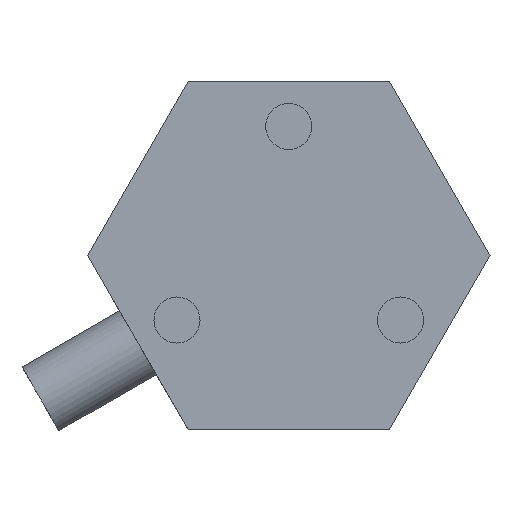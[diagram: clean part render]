
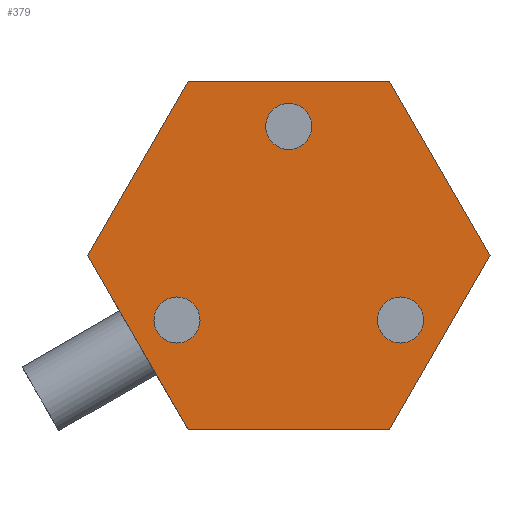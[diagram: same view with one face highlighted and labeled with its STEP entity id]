
A CAD part, front view. The second image highlights one B-rep face of the part: STEP entity #379.
In plain terms, the highlighted planar face has unit normal (0, -1, 0).
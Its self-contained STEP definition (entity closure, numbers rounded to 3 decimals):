
#1 = LINE ( 'NONE', #137, #158 ) ;
#3 = VERTEX_POINT ( 'NONE', #65 ) ;
#7 = AXIS2_PLACEMENT_3D ( 'NONE', #481, #135, #305 ) ;
#8 = EDGE_LOOP ( 'NONE', ( #540, #390, #529, #429, #445, #451 ) ) ;
#11 = FACE_BOUND ( 'NONE', #316, .T. ) ;
#14 = CARTESIAN_POINT ( 'NONE',  ( 0., 0., 0. ) ) ;
#17 = CARTESIAN_POINT ( 'NONE',  ( 5.456, 0., 9.45 ) ) ;
#23 = VECTOR ( 'NONE', #180, 1000. ) ;
#48 = CARTESIAN_POINT ( 'NONE',  ( 0., 0., 5.75 ) ) ;
#51 = ORIENTED_EDGE ( 'NONE', *, *, #436, .T. ) ;
#56 = DIRECTION ( 'NONE',  ( -0.5, 0., 0.866 ) ) ;
#59 = FACE_BOUND ( 'NONE', #401, .T. ) ;
#62 = CARTESIAN_POINT ( 'NONE',  ( -5.456, 0., -9.45 ) ) ;
#65 = CARTESIAN_POINT ( 'NONE',  ( -6.062, 0., -2.25 ) ) ;
#67 = AXIS2_PLACEMENT_3D ( 'NONE', #365, #97, #539 ) ;
#72 = VERTEX_POINT ( 'NONE', #536 ) ;
#77 = CARTESIAN_POINT ( 'NONE',  ( 6.062, 0., -4.75 ) ) ;
#86 = VECTOR ( 'NONE', #56, 1000. ) ;
#95 = ORIENTED_EDGE ( 'NONE', *, *, #191, .T. ) ;
#97 = DIRECTION ( 'NONE',  ( 0., 1., 0. ) ) ;
#100 = EDGE_CURVE ( 'NONE', #357, #182, #327, .T. ) ;
#102 = FACE_OUTER_BOUND ( 'NONE', #8, .T. ) ;
#109 = CARTESIAN_POINT ( 'NONE',  ( -6.062, 0., -3.5 ) ) ;
#116 = CARTESIAN_POINT ( 'NONE',  ( -5.456, 0., 9.45 ) ) ;
#120 = CARTESIAN_POINT ( 'NONE',  ( 0., 0., 7. ) ) ;
#121 = ORIENTED_EDGE ( 'NONE', *, *, #231, .T. ) ;
#124 = DIRECTION ( 'NONE',  ( 1., 0., 0. ) ) ;
#127 = EDGE_CURVE ( 'NONE', #182, #211, #425, .T. ) ;
#128 = DIRECTION ( 'NONE',  ( 0.5, 0., -0.866 ) ) ;
#131 = VECTOR ( 'NONE', #472, 1000. ) ;
#135 = DIRECTION ( 'NONE',  ( 0., 1., 0. ) ) ;
#136 = ORIENTED_EDGE ( 'NONE', *, *, #203, .T. ) ;
#137 = CARTESIAN_POINT ( 'NONE',  ( -5.456, 0., 9.45 ) ) ;
#143 = EDGE_CURVE ( 'NONE', #344, #557, #428, .T. ) ;
#158 = VECTOR ( 'NONE', #124, 1000. ) ;
#160 = DIRECTION ( 'NONE',  ( 0.5, 0., 0.866 ) ) ;
#162 = VERTEX_POINT ( 'NONE', #77 ) ;
#163 = DIRECTION ( 'NONE',  ( 0., 1., 0. ) ) ;
#164 = ORIENTED_EDGE ( 'NONE', *, *, #312, .T. ) ;
#168 = AXIS2_PLACEMENT_3D ( 'NONE', #14, #452, #279 ) ;
#180 = DIRECTION ( 'NONE',  ( -1., 0., 0. ) ) ;
#182 = VERTEX_POINT ( 'NONE', #466 ) ;
#189 = CIRCLE ( 'NONE', #67, 1.25 ) ;
#191 = EDGE_CURVE ( 'NONE', #468, #564, #487, .T. ) ;
#194 = PLANE ( 'NONE',  #168 ) ;
#202 = EDGE_CURVE ( 'NONE', #413, #3, #244, .T. ) ;
#203 = EDGE_CURVE ( 'NONE', #3, #413, #205, .T. ) ;
#205 = CIRCLE ( 'NONE', #274, 1.25 ) ;
#210 = CARTESIAN_POINT ( 'NONE',  ( 10.912, 0., 0. ) ) ;
#211 = VERTEX_POINT ( 'NONE', #116 ) ;
#215 = AXIS2_PLACEMENT_3D ( 'NONE', #257, #163, #501 ) ;
#227 = CARTESIAN_POINT ( 'NONE',  ( -5.456, 0., -9.45 ) ) ;
#231 = EDGE_CURVE ( 'NONE', #564, #468, #532, .T. ) ;
#244 = CIRCLE ( 'NONE', #215, 1.25 ) ;
#257 = CARTESIAN_POINT ( 'NONE',  ( -6.062, 0., -3.5 ) ) ;
#259 = CARTESIAN_POINT ( 'NONE',  ( 0., 0., 7. ) ) ;
#260 = CARTESIAN_POINT ( 'NONE',  ( 5.456, 0., -9.45 ) ) ;
#274 = AXIS2_PLACEMENT_3D ( 'NONE', #109, #295, #511 ) ;
#279 = DIRECTION ( 'NONE',  ( 0., 0., 1. ) ) ;
#295 = DIRECTION ( 'NONE',  ( 0., 1., 0. ) ) ;
#296 = DIRECTION ( 'NONE',  ( 0., 0., 1. ) ) ;
#301 = DIRECTION ( 'NONE',  ( 0., 1., 0. ) ) ;
#305 = DIRECTION ( 'NONE',  ( 0., 0., 1. ) ) ;
#309 = EDGE_CURVE ( 'NONE', #557, #357, #349, .T. ) ;
#311 = EDGE_LOOP ( 'NONE', ( #121, #95 ) ) ;
#312 = EDGE_CURVE ( 'NONE', #162, #374, #448, .T. ) ;
#315 = CARTESIAN_POINT ( 'NONE',  ( 5.456, 0., -9.45 ) ) ;
#316 = EDGE_LOOP ( 'NONE', ( #386, #136 ) ) ;
#324 = FACE_BOUND ( 'NONE', #311, .T. ) ;
#327 = LINE ( 'NONE', #62, #86 ) ;
#344 = VERTEX_POINT ( 'NONE', #565 ) ;
#349 = LINE ( 'NONE', #315, #23 ) ;
#357 = VERTEX_POINT ( 'NONE', #227 ) ;
#365 = CARTESIAN_POINT ( 'NONE',  ( 6.062, 0., -3.5 ) ) ;
#374 = VERTEX_POINT ( 'NONE', #531 ) ;
#377 = VECTOR ( 'NONE', #128, 1000. ) ;
#379 = ADVANCED_FACE ( 'NONE', ( #102, #59, #11, #324 ), #194, .F. ) ;
#386 = ORIENTED_EDGE ( 'NONE', *, *, #202, .T. ) ;
#390 = ORIENTED_EDGE ( 'NONE', *, *, #143, .F. ) ;
#401 = EDGE_LOOP ( 'NONE', ( #164, #51 ) ) ;
#405 = AXIS2_PLACEMENT_3D ( 'NONE', #120, #431, #545 ) ;
#413 = VERTEX_POINT ( 'NONE', #542 ) ;
#416 = VECTOR ( 'NONE', #160, 1000. ) ;
#424 = LINE ( 'NONE', #17, #377 ) ;
#425 = LINE ( 'NONE', #469, #416 ) ;
#428 = LINE ( 'NONE', #210, #131 ) ;
#429 = ORIENTED_EDGE ( 'NONE', *, *, #546, .F. ) ;
#431 = DIRECTION ( 'NONE',  ( 0., 1., 0. ) ) ;
#436 = EDGE_CURVE ( 'NONE', #374, #162, #189, .T. ) ;
#445 = ORIENTED_EDGE ( 'NONE', *, *, #127, .F. ) ;
#448 = CIRCLE ( 'NONE', #7, 1.25 ) ;
#451 = ORIENTED_EDGE ( 'NONE', *, *, #100, .F. ) ;
#452 = DIRECTION ( 'NONE',  ( 0., 1., 0. ) ) ;
#455 = CARTESIAN_POINT ( 'NONE',  ( 0., 0., 8.25 ) ) ;
#466 = CARTESIAN_POINT ( 'NONE',  ( -10.912, 0., 0. ) ) ;
#468 = VERTEX_POINT ( 'NONE', #455 ) ;
#469 = CARTESIAN_POINT ( 'NONE',  ( -10.912, 0., 0. ) ) ;
#472 = DIRECTION ( 'NONE',  ( -0.5, 0., -0.866 ) ) ;
#481 = CARTESIAN_POINT ( 'NONE',  ( 6.062, 0., -3.5 ) ) ;
#487 = CIRCLE ( 'NONE', #405, 1.25 ) ;
#501 = DIRECTION ( 'NONE',  ( 0., 0., 1. ) ) ;
#511 = DIRECTION ( 'NONE',  ( 0., 0., 1. ) ) ;
#523 = EDGE_CURVE ( 'NONE', #72, #344, #424, .T. ) ;
#529 = ORIENTED_EDGE ( 'NONE', *, *, #523, .F. ) ;
#531 = CARTESIAN_POINT ( 'NONE',  ( 6.062, 0., -2.25 ) ) ;
#532 = CIRCLE ( 'NONE', #561, 1.25 ) ;
#536 = CARTESIAN_POINT ( 'NONE',  ( 5.456, 0., 9.45 ) ) ;
#539 = DIRECTION ( 'NONE',  ( 0., 0., 1. ) ) ;
#540 = ORIENTED_EDGE ( 'NONE', *, *, #309, .F. ) ;
#542 = CARTESIAN_POINT ( 'NONE',  ( -6.062, 0., -4.75 ) ) ;
#545 = DIRECTION ( 'NONE',  ( 0., 0., 1. ) ) ;
#546 = EDGE_CURVE ( 'NONE', #211, #72, #1, .T. ) ;
#557 = VERTEX_POINT ( 'NONE', #260 ) ;
#561 = AXIS2_PLACEMENT_3D ( 'NONE', #259, #301, #296 ) ;
#564 = VERTEX_POINT ( 'NONE', #48 ) ;
#565 = CARTESIAN_POINT ( 'NONE',  ( 10.912, 0., 0. ) ) ;
